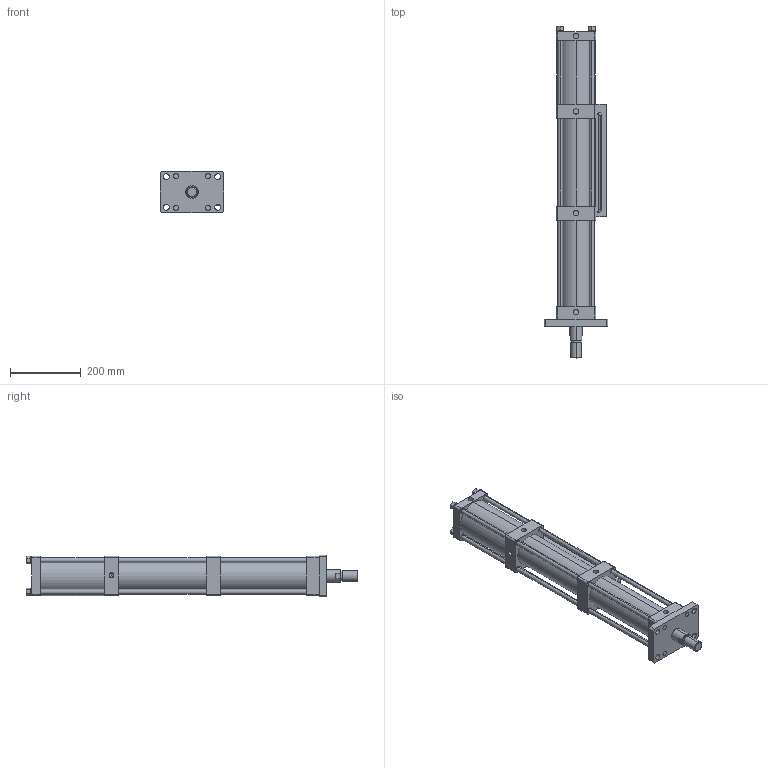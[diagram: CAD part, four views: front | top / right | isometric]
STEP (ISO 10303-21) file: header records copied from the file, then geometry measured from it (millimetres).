
FILE_DESCRIPTION (( 'STEP AP203' ), '1' );
FILE_NAME ('MPTF-80-200-10-5T.STEP', '2016-03-29T10:06:02', ( 'WIN' ), ( '' ), 'SwSTEP 2.0', 'SolidWorks 2014', '' );
FILE_SCHEMA (( 'CONFIG_CONTROL_DESIGN' ));
Length unit declared in the file: millimetre
Products named in the file (1): MPTF-80-200-10-5T
Bounding box: 180 x 940 x 118 mm (x, y, z)
Volume: 3827490.1 mm3; surface area: 793233.6 mm2
Topology: 5 solids, 5 shells, 266 faces, 632 edges, 413 vertices
Faces by surface type: cylinder 136, plane 120, cone 6, torus 4
Entity records: 7973 total; most frequent: DIRECTION 1448, CARTESIAN_POINT 1382, ORIENTED_EDGE 1260, EDGE_CURVE 630, AXIS2_PLACEMENT_3D 555, VERTEX_POINT 413, EDGE_LOOP 349, VECTOR 338
